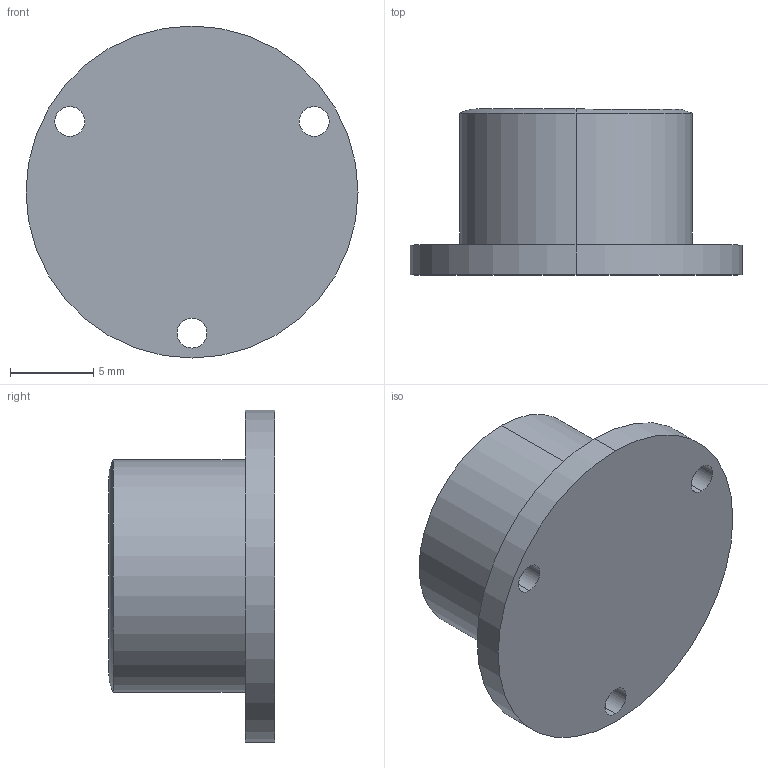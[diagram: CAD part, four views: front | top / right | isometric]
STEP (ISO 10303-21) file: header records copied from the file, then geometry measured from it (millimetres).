
FILE_DESCRIPTION (( 'STEP AP214' ), '1' );
FILE_NAME ('2277-ALN-20-K-30-A.step', '2020-03-26T08:33:00', ( '' ), ( '' ), 'SwSTEP 2.0', 'SolidWorks 2019', '' );
FILE_SCHEMA (( 'AUTOMOTIVE_DESIGN' ));
Length unit declared in the file: millimetre
Products named in the file (1): 2277-ALN-20-K-30-A
Bounding box: 20 x 10 x 20 mm (x, y, z)
Volume: 1739.4 mm3; surface area: 1128.3 mm2
Topology: 1 solids, 1 shells, 23 faces, 50 edges, 32 vertices
Faces by surface type: cylinder 16, plane 5, torus 2
Entity records: 725 total; most frequent: DIRECTION 132, CARTESIAN_POINT 106, ORIENTED_EDGE 100, AXIS2_PLACEMENT_3D 58, EDGE_CURVE 50, CIRCLE 34, VERTEX_POINT 32, EDGE_LOOP 32
